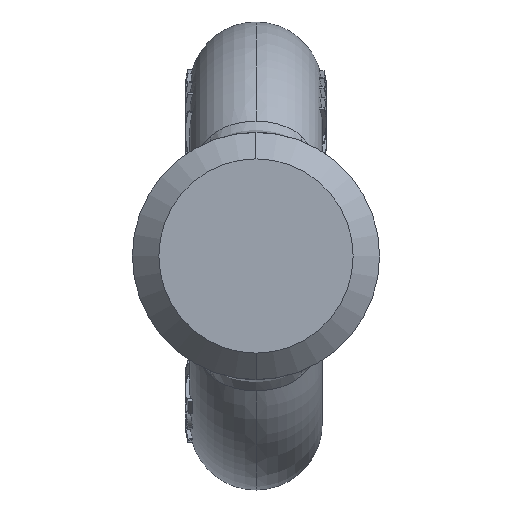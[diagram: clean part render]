
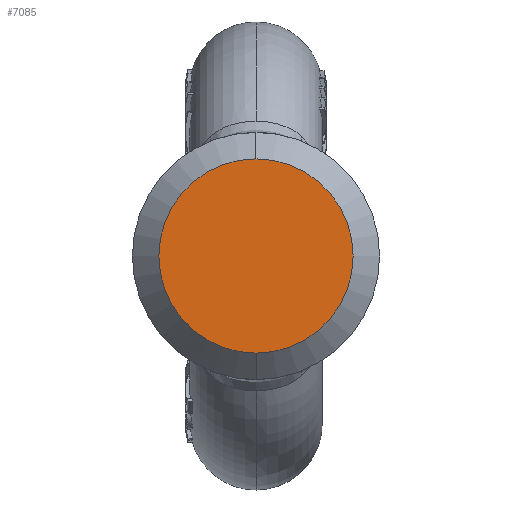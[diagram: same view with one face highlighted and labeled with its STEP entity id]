
A CAD part, left-side view. The second image highlights one B-rep face of the part: STEP entity #7085.
In plain terms, the highlighted planar face has unit normal (-1, 0, 0).
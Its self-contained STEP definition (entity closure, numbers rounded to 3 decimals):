
#717 = ORIENTED_EDGE ( 'NONE', *, *, #721, .T. ) ;
#721 = EDGE_CURVE ( 'NONE', #1236, #4464, #8844, .T. ) ;
#732 = CARTESIAN_POINT ( 'NONE',  ( 0., 0., 0. ) ) ;
#1074 = ORIENTED_EDGE ( 'NONE', *, *, #11036, .T. ) ;
#1236 = VERTEX_POINT ( 'NONE', #11538 ) ;
#1437 = CARTESIAN_POINT ( 'NONE',  ( 0., 0., -14. ) ) ;
#1673 = DIRECTION ( 'NONE',  ( 0., 1., 0. ) ) ;
#1947 = DIRECTION ( 'NONE',  ( 0., 0., -1. ) ) ;
#2815 = PLANE ( 'NONE',  #7107 ) ;
#2948 = DIRECTION ( 'NONE',  ( -1., 0., 0. ) ) ;
#3961 = CARTESIAN_POINT ( 'NONE',  ( 0., 0., 11. ) ) ;
#4464 = VERTEX_POINT ( 'NONE', #3961 ) ;
#4972 = DIRECTION ( 'NONE',  ( 1., 0., 0. ) ) ;
#5368 = AXIS2_PLACEMENT_3D ( 'NONE', #732, #12296, #5946 ) ;
#5946 = DIRECTION ( 'NONE',  ( 0., 0., -1. ) ) ;
#7085 = ADVANCED_FACE ( 'NONE', ( #10653 ), #2815, .F. ) ;
#7107 = AXIS2_PLACEMENT_3D ( 'NONE', #1437, #4972, #1673 ) ;
#7127 = EDGE_LOOP ( 'NONE', ( #717, #1074 ) ) ;
#7189 = AXIS2_PLACEMENT_3D ( 'NONE', #9293, #2948, #1947 ) ;
#8844 = CIRCLE ( 'NONE', #5368, 11. ) ;
#9293 = CARTESIAN_POINT ( 'NONE',  ( 0., 0., 0. ) ) ;
#10653 = FACE_OUTER_BOUND ( 'NONE', #7127, .T. ) ;
#11036 = EDGE_CURVE ( 'NONE', #4464, #1236, #11482, .T. ) ;
#11482 = CIRCLE ( 'NONE', #7189, 11. ) ;
#11538 = CARTESIAN_POINT ( 'NONE',  ( 0., 0., -11. ) ) ;
#12296 = DIRECTION ( 'NONE',  ( -1., 0., 0. ) ) ;
